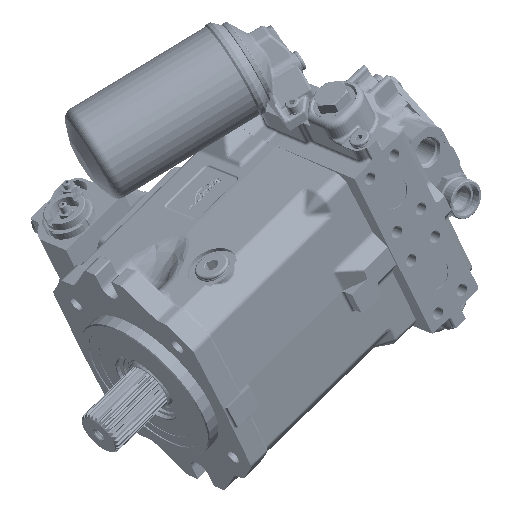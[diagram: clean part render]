
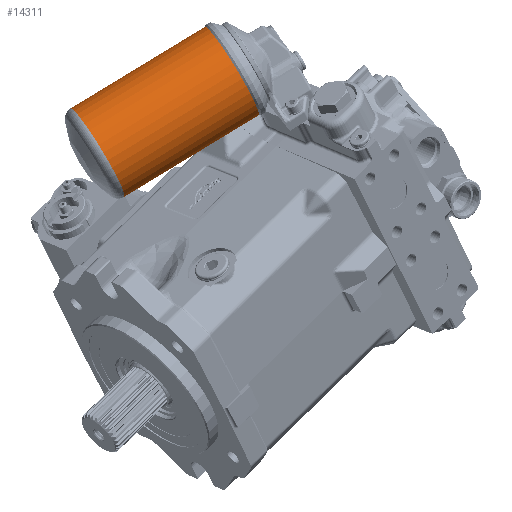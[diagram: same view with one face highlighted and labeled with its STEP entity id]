
A CAD part, isometric view. The second image highlights one B-rep face of the part: STEP entity #14311.
In plain terms, the highlighted cylindrical face has radius 46 mm (diameter 92 mm), a full revolution.
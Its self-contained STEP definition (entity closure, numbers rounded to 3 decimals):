
#6437=FACE_BOUND('',#24691,.T.);
#6438=FACE_BOUND('',#24692,.T.);
#8275=CYLINDRICAL_SURFACE('',#77003,46.);
#10386=CIRCLE('',#77000,46.);
#10387=CIRCLE('',#77002,46.);
#14311=ADVANCED_FACE('',(#6437,#6438),#8275,.T.);
#24691=EDGE_LOOP('',(#35712));
#24692=EDGE_LOOP('',(#35713));
#35712=ORIENTED_EDGE('',*,*,#60196,.F.);
#35713=ORIENTED_EDGE('',*,*,#60197,.T.);
#52147=VERTEX_POINT('',#130843);
#52148=VERTEX_POINT('',#130846);
#60196=EDGE_CURVE('',#52147,#52147,#10386,.T.);
#60197=EDGE_CURVE('',#52148,#52148,#10387,.T.);
#77000=AXIS2_PLACEMENT_3D('',#130842,#88778,#88779);
#77002=AXIS2_PLACEMENT_3D('',#130845,#88782,#88783);
#77003=AXIS2_PLACEMENT_3D('',#130847,#88784,#88785);
#88778=DIRECTION('',(0.,-0.94,0.342));
#88779=DIRECTION('',(0.826,0.193,0.53));
#88782=DIRECTION('',(0.,-0.94,0.342));
#88783=DIRECTION('',(0.826,0.193,0.53));
#88784=DIRECTION('',(0.,-0.94,0.342));
#88785=DIRECTION('',(0.826,0.193,0.53));
#130842=CARTESIAN_POINT('',(171.,107.606,78.113));
#130843=CARTESIAN_POINT('',(208.992,116.479,102.484));
#130845=CARTESIAN_POINT('',(171.,239.409,30.127));
#130846=CARTESIAN_POINT('',(208.992,248.282,54.498));
#130847=CARTESIAN_POINT('',(171.,252.087,25.512));
